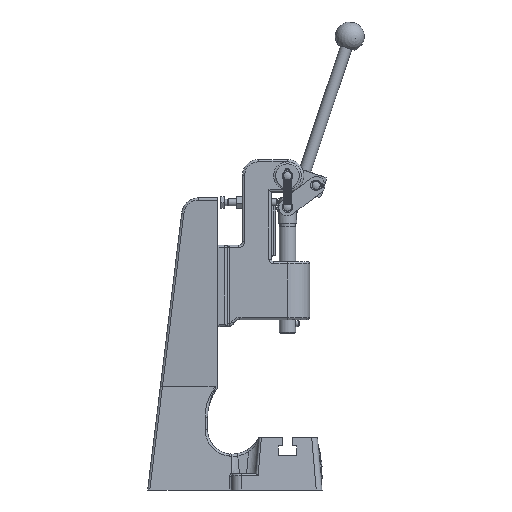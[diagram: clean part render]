
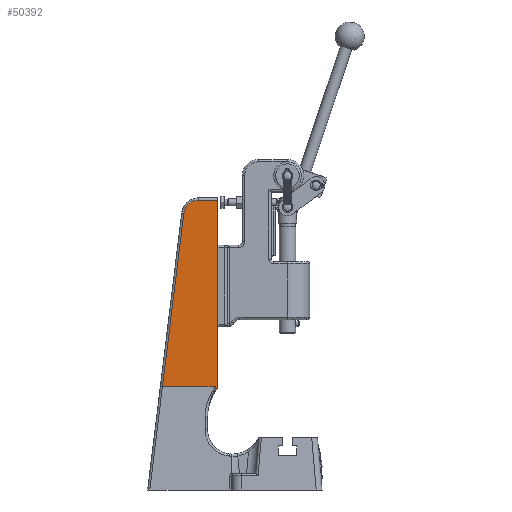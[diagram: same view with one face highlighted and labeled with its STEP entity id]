
A CAD part, left-side view. The second image highlights one B-rep face of the part: STEP entity #50392.
In plain terms, the highlighted planar face has unit normal (-0.998, 0.068, 0).
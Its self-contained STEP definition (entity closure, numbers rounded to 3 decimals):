
#1182=ELLIPSE('',#53228,13.03,13.);
#1186=ELLIPSE('',#53237,42.098,42.);
#1677=PLANE('',#53236);
#3200=FACE_OUTER_BOUND('',#5968,.T.);
#5968=EDGE_LOOP('',(#33209,#33210,#33211,#33212,#33213,#33214,#33215));
#9719=LINE('',#65521,#14308);
#9760=LINE('',#65847,#14349);
#9778=LINE('',#65986,#14367);
#9779=LINE('',#65987,#14368);
#14308=VECTOR('',#55818,161.413);
#14349=VECTOR('',#55955,45.446);
#14367=VECTOR('',#56025,16.595);
#14368=VECTOR('',#56026,150.713);
#18846=B_SPLINE_CURVE_WITH_KNOTS('',3,(#65989,#65990,#65991,#65992,#65993,
#65994,#65995,#65996,#65997,#65998,#65999,#66000,#66001,#66002,#66003,#66004,
#66005,#66006),.UNSPECIFIED.,.F.,.F.,(4,2,2,2,2,2,2,2,4),(0.,0.008,
0.015,0.021,0.031,0.052,
0.11,0.503,0.794),.UNSPECIFIED.);
#20859=VERTEX_POINT('',#65517);
#20861=VERTEX_POINT('',#65520);
#20925=VERTEX_POINT('',#65844);
#20926=VERTEX_POINT('',#65846);
#20942=VERTEX_POINT('',#65937);
#20943=VERTEX_POINT('',#65939);
#20949=VERTEX_POINT('',#65988);
#25715=EDGE_CURVE('',#20861,#20859,#9719,.T.);
#25800=EDGE_CURVE('',#20925,#20926,#9760,.T.);
#25826=EDGE_CURVE('',#20942,#20943,#1182,.T.);
#25835=EDGE_CURVE('',#20943,#20859,#9778,.T.);
#25836=EDGE_CURVE('',#20926,#20942,#9779,.T.);
#25837=EDGE_CURVE('',#20949,#20925,#18846,.F.);
#25838=EDGE_CURVE('',#20949,#20861,#1186,.T.);
#33209=ORIENTED_EDGE('',*,*,#25715,.T.);
#33210=ORIENTED_EDGE('',*,*,#25835,.F.);
#33211=ORIENTED_EDGE('',*,*,#25826,.F.);
#33212=ORIENTED_EDGE('',*,*,#25836,.F.);
#33213=ORIENTED_EDGE('',*,*,#25800,.F.);
#33214=ORIENTED_EDGE('',*,*,#25837,.F.);
#33215=ORIENTED_EDGE('',*,*,#25838,.T.);
#50392=ADVANCED_FACE('',(#3200),#1677,.T.);
#53228=AXIS2_PLACEMENT_3D('',#65940,#56005,#56006);
#53236=AXIS2_PLACEMENT_3D('',#65985,#56023,#56024);
#53237=AXIS2_PLACEMENT_3D('',#66007,#56027,#56028);
#55818=DIRECTION('',(0.,0.,1.));
#55955=DIRECTION('',(0.068,0.998,0.));
#56005=DIRECTION('center_axis',(0.998,-0.068,0.));
#56006=DIRECTION('ref_axis',(0.068,0.998,0.));
#56023=DIRECTION('center_axis',(-0.998,0.068,0.));
#56024=DIRECTION('ref_axis',(-0.068,-0.998,0.));
#56025=DIRECTION('',(-0.068,-0.998,0.));
#56026=DIRECTION('',(-0.008,-0.122,0.993));
#56027=DIRECTION('center_axis',(0.998,-0.068,0.));
#56028=DIRECTION('ref_axis',(-0.068,-0.998,0.));
#65517=CARTESIAN_POINT('',(-25.178,90.,253.));
#65520=CARTESIAN_POINT('',(-25.178,90.,91.587));
#65521=CARTESIAN_POINT('',(-25.178,90.,173.5));
#65844=CARTESIAN_POINT('',(-25.008,92.485,92.));
#65846=CARTESIAN_POINT('',(-21.902,137.825,92.));
#65847=CARTESIAN_POINT('',(-21.,151.,92.));
#65937=CARTESIAN_POINT('',(-23.16,119.459,241.584));
#65939=CARTESIAN_POINT('',(-24.044,106.556,253.));
#65940=CARTESIAN_POINT('Origin',(-24.044,106.556,240.));
#65985=CARTESIAN_POINT('Origin',(-21.,151.,92.));
#65986=CARTESIAN_POINT('',(-22.247,132.795,253.));
#65987=CARTESIAN_POINT('',(-21.508,143.581,45.123));
#65988=CARTESIAN_POINT('',(-24.576,98.788,69.817));
#65989=CARTESIAN_POINT('Ctrl Pts',(-25.008,92.485,92.));
#65990=CARTESIAN_POINT('Ctrl Pts',(-25.01,92.458,92.));
#65991=CARTESIAN_POINT('Ctrl Pts',(-25.012,92.43,91.996));
#65992=CARTESIAN_POINT('Ctrl Pts',(-25.015,92.384,91.978));
#65993=CARTESIAN_POINT('Ctrl Pts',(-25.016,92.366,91.966));
#65994=CARTESIAN_POINT('Ctrl Pts',(-25.018,92.335,91.936));
#65995=CARTESIAN_POINT('Ctrl Pts',(-25.019,92.323,91.917));
#65996=CARTESIAN_POINT('Ctrl Pts',(-25.021,92.299,91.867));
#65997=CARTESIAN_POINT('Ctrl Pts',(-25.021,92.291,91.834));
#65998=CARTESIAN_POINT('Ctrl Pts',(-25.022,92.278,91.733));
#65999=CARTESIAN_POINT('Ctrl Pts',(-25.022,92.283,91.655));
#66000=CARTESIAN_POINT('Ctrl Pts',(-25.019,92.324,91.359));
#66001=CARTESIAN_POINT('Ctrl Pts',(-25.013,92.411,91.082));
#66002=CARTESIAN_POINT('Ctrl Pts',(-24.963,93.138,89.061));
#66003=CARTESIAN_POINT('Ctrl Pts',(-24.839,94.956,85.632));
#66004=CARTESIAN_POINT('Ctrl Pts',(-24.654,97.653,77.171));
#66005=CARTESIAN_POINT('Ctrl Pts',(-24.602,98.412,73.55));
#66006=CARTESIAN_POINT('Ctrl Pts',(-24.576,98.788,69.817));
#66007=CARTESIAN_POINT('Origin',(-27.438,57.,65.606));
